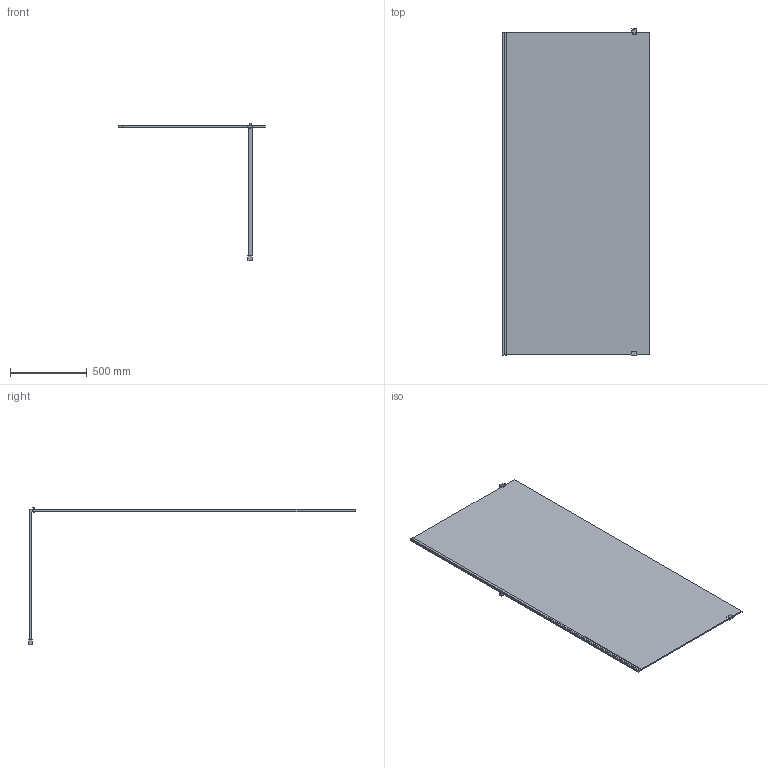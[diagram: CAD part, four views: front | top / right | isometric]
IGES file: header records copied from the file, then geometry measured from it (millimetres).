
Start section: SolidWorks IGES file using analytic representation for surfaces
Global section: file name: D:\Users\M.Szymanski\Desktop\Kabiny\PIII_ALTIIa\03. do przegrania\PIII_ALTIIa_100_K3D.IGS; native system: SolidWorks 2011; preprocessor: SolidWorks 2011; author: M.Szymanski; date: 181005.104422; units: millimetre
Bounding box: 958.45 x 2128 x 894.4 mm (x, y, z)
Surface area: 4325024.1 mm2 (no closed solid volume)
Topology: 0 solids, 0 shells, 52 faces, 372 edges, 496 vertices
Faces by surface type: bspline 52
